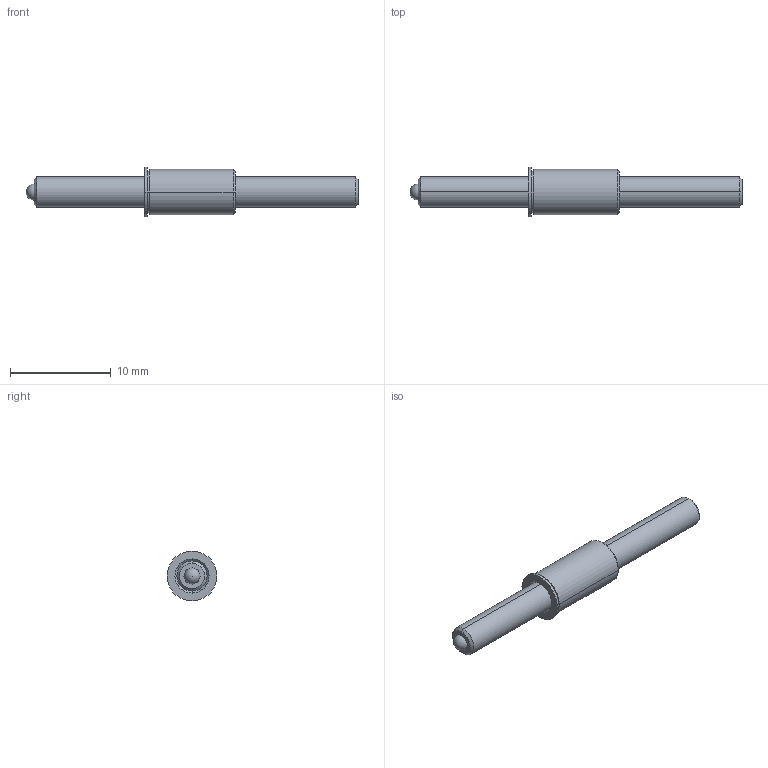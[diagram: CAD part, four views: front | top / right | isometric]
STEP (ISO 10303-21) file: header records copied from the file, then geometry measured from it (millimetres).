
FILE_DESCRIPTION (( 'STEP AP214' ), '1' );
FILE_NAME ('TSBM3-25-33_9.STEP', '2013-03-14T21:15:56', ( 'workpc' ), ( 'Microsoft' ), 'SwSTEP 2.0', 'SolidWorks 2013', '' );
FILE_SCHEMA (( 'AUTOMOTIVE_DESIGN' ));
Length unit declared in the file: inch
Products named in the file (1): TSBM3-25-33_9
Bounding box: 33 x 4.95 x 4.95 mm (x, y, z)
Surface area: 486.1 mm2 (no closed solid volume)
Topology: 0 solids, 3 shells, 32 faces, 75 edges, 49 vertices
Faces by surface type: plane 12, cone 10, cylinder 8, sphere 2
Entity records: 1325 total; most frequent: DIRECTION 170, CARTESIAN_POINT 149, ORIENTED_EDGE 128, EDGE_CURVE 70, AXIS2_PLACEMENT_3D 67, VERTEX_POINT 46, EDGE_LOOP 38, LINE 36
